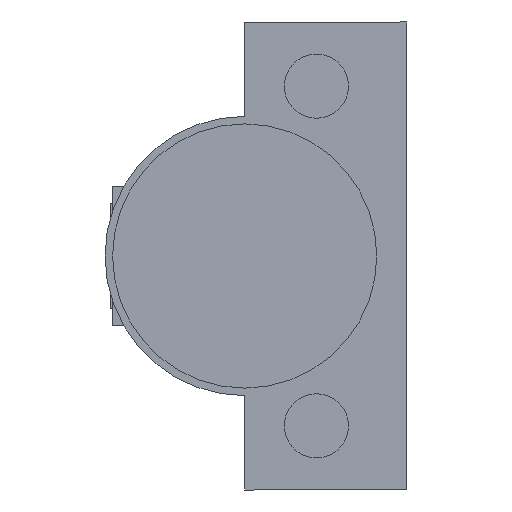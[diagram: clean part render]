
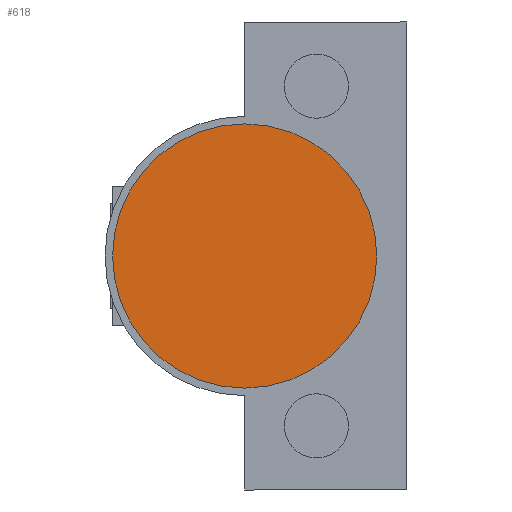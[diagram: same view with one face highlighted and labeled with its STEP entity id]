
A CAD part, front view. The second image highlights one B-rep face of the part: STEP entity #618.
In plain terms, the highlighted planar face has unit normal (0, -1, 0).
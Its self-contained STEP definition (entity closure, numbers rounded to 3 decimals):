
#31 = EDGE_CURVE ( 'NONE', #786, #1126, #837, .T. ) ;
#130 = DIRECTION ( 'NONE',  ( 1., 0., 0. ) ) ;
#137 = DIRECTION ( 'NONE',  ( 0., -1., 0. ) ) ;
#177 = CARTESIAN_POINT ( 'NONE',  ( 21.5, -51.1, 0. ) ) ;
#484 = AXIS2_PLACEMENT_3D ( 'NONE', #1316, #1298, #1337 ) ;
#524 = EDGE_LOOP ( 'NONE', ( #1621, #927 ) ) ;
#618 = ADVANCED_FACE ( 'NONE', ( #1776 ), #902, .T. ) ;
#752 = EDGE_CURVE ( 'NONE', #1126, #786, #897, .T. ) ;
#773 = CARTESIAN_POINT ( 'NONE',  ( 4., -51.1, 0. ) ) ;
#786 = VERTEX_POINT ( 'NONE', #773 ) ;
#837 = CIRCLE ( 'NONE', #484, 17.5 ) ;
#871 = CARTESIAN_POINT ( 'NONE',  ( 39., -51.1, 0. ) ) ;
#893 = DIRECTION ( 'NONE',  ( 0., -1., 0. ) ) ;
#897 = CIRCLE ( 'NONE', #1183, 17.5 ) ;
#902 = PLANE ( 'NONE',  #996 ) ;
#927 = ORIENTED_EDGE ( 'NONE', *, *, #752, .T. ) ;
#996 = AXIS2_PLACEMENT_3D ( 'NONE', #1068, #893, #1194 ) ;
#1068 = CARTESIAN_POINT ( 'NONE',  ( 21.5, -51.1, 0. ) ) ;
#1126 = VERTEX_POINT ( 'NONE', #871 ) ;
#1183 = AXIS2_PLACEMENT_3D ( 'NONE', #177, #137, #130 ) ;
#1194 = DIRECTION ( 'NONE',  ( 1., 0., 0. ) ) ;
#1298 = DIRECTION ( 'NONE',  ( 0., -1., 0. ) ) ;
#1316 = CARTESIAN_POINT ( 'NONE',  ( 21.5, -51.1, 0. ) ) ;
#1337 = DIRECTION ( 'NONE',  ( 1., 0., 0. ) ) ;
#1621 = ORIENTED_EDGE ( 'NONE', *, *, #31, .T. ) ;
#1776 = FACE_OUTER_BOUND ( 'NONE', #524, .T. ) ;
